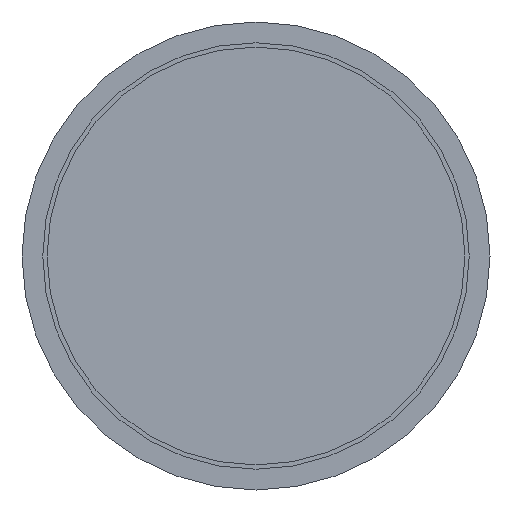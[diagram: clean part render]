
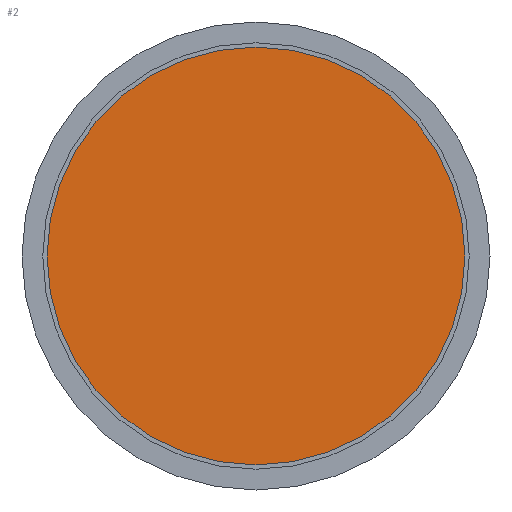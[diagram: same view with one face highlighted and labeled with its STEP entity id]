
A CAD part, front view. The second image highlights one B-rep face of the part: STEP entity #2.
In plain terms, the highlighted planar face has unit normal (0, -1, 0).
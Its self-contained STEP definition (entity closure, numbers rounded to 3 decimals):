
#2 = ADVANCED_FACE ( 'NONE', ( #534 ), #609, .F. ) ;
#8 = CIRCLE ( 'NONE', #25, 245.5 ) ;
#25 = AXIS2_PLACEMENT_3D ( 'NONE', #471, #463, #385 ) ;
#38 = AXIS2_PLACEMENT_3D ( 'NONE', #52, #569, #296 ) ;
#51 = CARTESIAN_POINT ( 'NONE',  ( 0., 0., -245.5 ) ) ;
#52 = CARTESIAN_POINT ( 'NONE',  ( 0., 0., 245.5 ) ) ;
#69 = CARTESIAN_POINT ( 'NONE',  ( 0., 0., 0. ) ) ;
#120 = CIRCLE ( 'NONE', #348, 245.5 ) ;
#211 = EDGE_CURVE ( 'NONE', #528, #560, #120, .T. ) ;
#260 = EDGE_LOOP ( 'NONE', ( #419, #509 ) ) ;
#296 = DIRECTION ( 'NONE',  ( 0., 0., 1. ) ) ;
#348 = AXIS2_PLACEMENT_3D ( 'NONE', #69, #364, #409 ) ;
#364 = DIRECTION ( 'NONE',  ( 0., -1., 0. ) ) ;
#385 = DIRECTION ( 'NONE',  ( 0., 0., -1. ) ) ;
#409 = DIRECTION ( 'NONE',  ( 0., 0., -1. ) ) ;
#419 = ORIENTED_EDGE ( 'NONE', *, *, #211, .T. ) ;
#463 = DIRECTION ( 'NONE',  ( 0., -1., 0. ) ) ;
#471 = CARTESIAN_POINT ( 'NONE',  ( 0., 0., 0. ) ) ;
#473 = CARTESIAN_POINT ( 'NONE',  ( 0., 0., 245.5 ) ) ;
#509 = ORIENTED_EDGE ( 'NONE', *, *, #522, .T. ) ;
#522 = EDGE_CURVE ( 'NONE', #560, #528, #8, .T. ) ;
#528 = VERTEX_POINT ( 'NONE', #51 ) ;
#534 = FACE_OUTER_BOUND ( 'NONE', #260, .T. ) ;
#560 = VERTEX_POINT ( 'NONE', #473 ) ;
#569 = DIRECTION ( 'NONE',  ( 0., 1., 0. ) ) ;
#609 = PLANE ( 'NONE',  #38 ) ;
